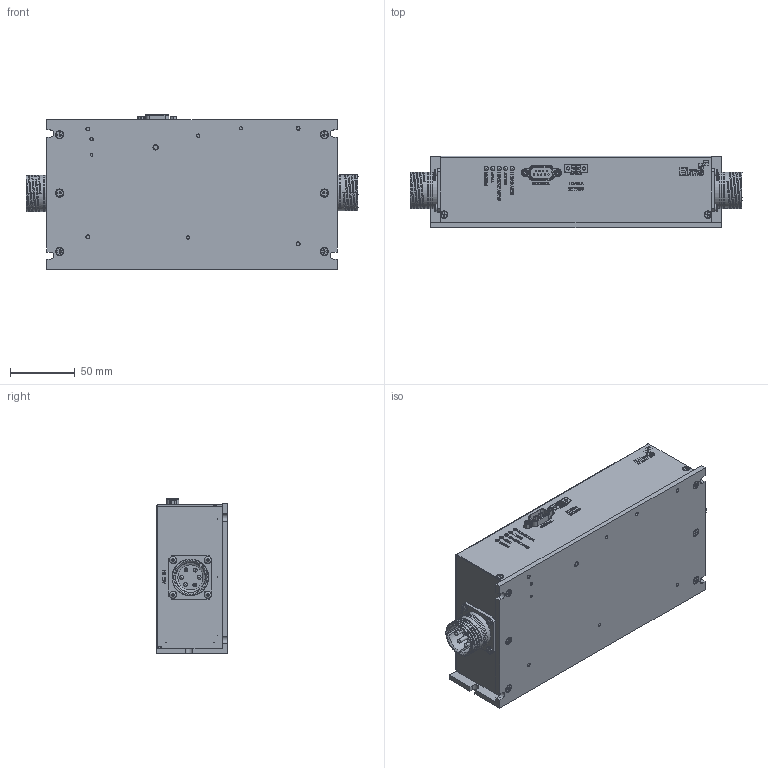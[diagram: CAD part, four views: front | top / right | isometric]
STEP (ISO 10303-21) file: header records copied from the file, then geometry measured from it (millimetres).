
FILE_DESCRIPTION (( 'STEP AP203' ), '1' );
FILE_NAME ('ASS ELEPHENT MIL DC 29-4-15.STEP', '2015-04-29T10:06:35', ( '' ), ( '' ), 'SwSTEP 2.0', 'SolidWorks 2013', '' );
FILE_SCHEMA (( 'CONFIG_CONTROL_DESIGN' ));
Products named in the file (1): ASS ELEPHENT MIL  DC 29-4-15
Bounding box: 255.74 x 55 x 118.97 mm (x, y, z)
Volume: 264919.8 mm3; surface area: 197748.6 mm2
Topology: 47 solids, 47 shells, 4491 faces, 12081 edges, 7973 vertices
Faces by surface type: plane 3160, cylinder 550, bspline 460, cone 258, torus 42, sphere 21
Full cylindrical faces by diameter (mm): 0.084 x1, 0.189 x1, 0.326 x1, 0.457 x1, 0.5 x10, 1 x9, 1.2 x2, 1.25 x2, 1.6 x1, 1.8 x2, 2.05 x3, 2.261 x6, 2.35 x2, 2.36 x2, 2.4 x2, 2.5 x36, 2.68 x4, 2.845 x6, 2.89 x5, 2.933 x18, 3 x26, 3.2 x5, 3.25 x2, 3.3 x1, 3.4 x10, 4 x1, 4.25 x2, 4.851 x6, 5.5 x10, 5.6 x16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
Entity records: 167196 total; most frequent: CARTESIAN_POINT 60962, ORIENTED_EDGE 23020, DIRECTION 19259, EDGE_CURVE 11510, VECTOR 8251, LINE 8251, VERTEX_POINT 7823, AXIS2_PLACEMENT_3D 5504
